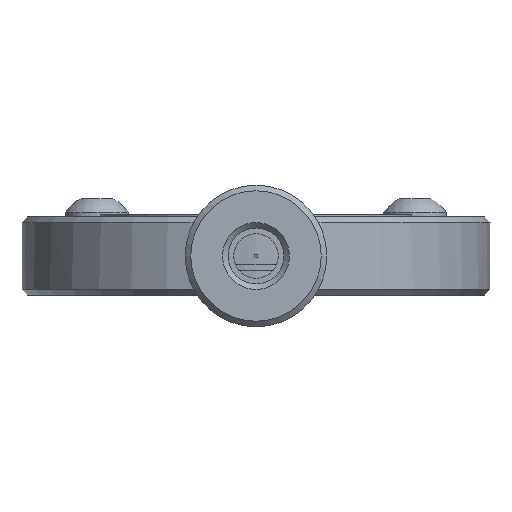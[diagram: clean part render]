
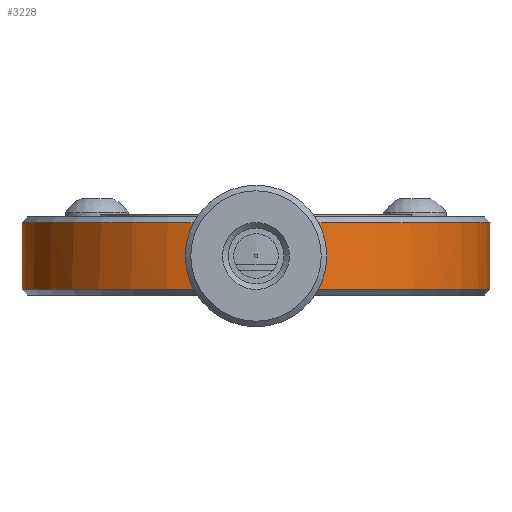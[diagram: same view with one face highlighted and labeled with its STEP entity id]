
A CAD part, front view. The second image highlights one B-rep face of the part: STEP entity #3228.
In plain terms, the highlighted cylindrical face has radius 21 mm (diameter 42 mm), a partial arc.
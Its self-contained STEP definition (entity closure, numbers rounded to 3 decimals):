
#156 = CARTESIAN_POINT ( 'NONE',  ( -5.016, 23.392, 3. ) ) ;
#218 = CARTESIAN_POINT ( 'NONE',  ( -16.872, 56.994, -0.65 ) ) ;
#264 = CARTESIAN_POINT ( 'NONE',  ( 4.094, 23.392, -3. ) ) ;
#265 = CARTESIAN_POINT ( 'NONE',  ( -5.016, 23.392, -3. ) ) ;
#273 = CARTESIAN_POINT ( 'NONE',  ( -16.872, 56.994, 3. ) ) ;
#276 = CARTESIAN_POINT ( 'NONE',  ( 4.094, 23.392, 3. ) ) ;
#284 = CARTESIAN_POINT ( 'NONE',  ( 15.95, 56.994, -0.65 ) ) ;
#291 = CARTESIAN_POINT ( 'NONE',  ( 15.95, 56.994, 3. ) ) ;
#631 = AXIS2_PLACEMENT_3D ( 'NONE', #867, #865, #860 ) ;
#801 = CARTESIAN_POINT ( 'NONE',  ( -0.461, 43.892, 3. ) ) ;
#802 = DIRECTION ( 'NONE',  ( 0., 0., -1. ) ) ;
#803 = DIRECTION ( 'NONE',  ( 1., 0., 0. ) ) ;
#860 = DIRECTION ( 'NONE',  ( -1., 0., 0. ) ) ;
#865 = DIRECTION ( 'NONE',  ( 0., 0., -1. ) ) ;
#867 = CARTESIAN_POINT ( 'NONE',  ( -0.461, 43.892, 3.5 ) ) ;
#1134 = FACE_OUTER_BOUND ( 'NONE', #3444, .T. ) ;
#1136 = CYLINDRICAL_SURFACE ( 'NONE', #631, 21. ) ;
#1397 = VECTOR ( 'NONE', #4024, 1000. ) ;
#1399 = CIRCLE ( 'NONE', #2375, 21. ) ;
#1401 = VECTOR ( 'NONE', #4022, 1000. ) ;
#1403 = LINE ( 'NONE', #4023, #1397 ) ;
#1405 = VECTOR ( 'NONE', #4014, 1000. ) ;
#1411 = LINE ( 'NONE', #4012, #1405 ) ;
#1415 = LINE ( 'NONE', #4021, #1401 ) ;
#1441 = CIRCLE ( 'NONE', #2376, 21. ) ;
#1449 = CIRCLE ( 'NONE', #2387, 21. ) ;
#1491 = VECTOR ( 'NONE', #3037, 1000. ) ;
#1494 = LINE ( 'NONE', #3028, #1491 ) ;
#1497 = CIRCLE ( 'NONE', #2397, 21. ) ;
#2029 = ORIENTED_EDGE ( 'NONE', *, *, #2802, .T. ) ;
#2030 = ORIENTED_EDGE ( 'NONE', *, *, #2801, .T. ) ;
#2031 = ORIENTED_EDGE ( 'NONE', *, *, #2803, .T. ) ;
#2032 = ORIENTED_EDGE ( 'NONE', *, *, #2783, .T. ) ;
#2033 = ORIENTED_EDGE ( 'NONE', *, *, #2757, .T. ) ;
#2034 = ORIENTED_EDGE ( 'NONE', *, *, #2754, .T. ) ;
#2035 = ORIENTED_EDGE ( 'NONE', *, *, #2804, .T. ) ;
#2036 = ORIENTED_EDGE ( 'NONE', *, *, #2805, .T. ) ;
#2375 = AXIS2_PLACEMENT_3D ( 'NONE', #4026, #4027, #4028 ) ;
#2376 = AXIS2_PLACEMENT_3D ( 'NONE', #4018, #4019, #4020 ) ;
#2387 = AXIS2_PLACEMENT_3D ( 'NONE', #801, #802, #803 ) ;
#2397 = AXIS2_PLACEMENT_3D ( 'NONE', #3029, #3030, #3031 ) ;
#2754 = EDGE_CURVE ( 'NONE', #3816, #3903, #1497, .T. ) ;
#2757 = EDGE_CURVE ( 'NONE', #3887, #3816, #1494, .T. ) ;
#2783 = EDGE_CURVE ( 'NONE', #3754, #3887, #1449, .T. ) ;
#2801 = EDGE_CURVE ( 'NONE', #3871, #3875, #1441, .T. ) ;
#2802 = EDGE_CURVE ( 'NONE', #3891, #3871, #1411, .T. ) ;
#2803 = EDGE_CURVE ( 'NONE', #3875, #3754, #1415, .T. ) ;
#2804 = EDGE_CURVE ( 'NONE', #3903, #3920, #1403, .T. ) ;
#2805 = EDGE_CURVE ( 'NONE', #3920, #3891, #1399, .T. ) ;
#3028 = CARTESIAN_POINT ( 'NONE',  ( -16.872, 56.994, 3.5 ) ) ;
#3029 = CARTESIAN_POINT ( 'NONE',  ( -0.461, 43.892, -0.65 ) ) ;
#3030 = DIRECTION ( 'NONE',  ( 0., 0., -1. ) ) ;
#3031 = DIRECTION ( 'NONE',  ( -1., 0., 0. ) ) ;
#3037 = DIRECTION ( 'NONE',  ( 0., 0., -1. ) ) ;
#3228 = ADVANCED_FACE ( 'NONE', ( #1134 ), #1136, .T. ) ;
#3444 = EDGE_LOOP ( 'NONE', ( #2029, #2030, #2031, #2032, #2033, #2034, #2035, #2036 ) ) ;
#3754 = VERTEX_POINT ( 'NONE', #156 ) ;
#3816 = VERTEX_POINT ( 'NONE', #218 ) ;
#3871 = VERTEX_POINT ( 'NONE', #264 ) ;
#3875 = VERTEX_POINT ( 'NONE', #265 ) ;
#3887 = VERTEX_POINT ( 'NONE', #273 ) ;
#3891 = VERTEX_POINT ( 'NONE', #276 ) ;
#3903 = VERTEX_POINT ( 'NONE', #284 ) ;
#3920 = VERTEX_POINT ( 'NONE', #291 ) ;
#4012 = CARTESIAN_POINT ( 'NONE',  ( 4.094, 23.392, 3.5 ) ) ;
#4014 = DIRECTION ( 'NONE',  ( 0., 0., -1. ) ) ;
#4018 = CARTESIAN_POINT ( 'NONE',  ( -0.461, 43.892, -3. ) ) ;
#4019 = DIRECTION ( 'NONE',  ( 0., 0., 1. ) ) ;
#4020 = DIRECTION ( 'NONE',  ( 1., 0., 0. ) ) ;
#4021 = CARTESIAN_POINT ( 'NONE',  ( -5.016, 23.392, 3.5 ) ) ;
#4022 = DIRECTION ( 'NONE',  ( 0., 0., 1. ) ) ;
#4023 = CARTESIAN_POINT ( 'NONE',  ( 15.95, 56.994, 3.5 ) ) ;
#4024 = DIRECTION ( 'NONE',  ( 0., 0., 1. ) ) ;
#4026 = CARTESIAN_POINT ( 'NONE',  ( -0.461, 43.892, 3. ) ) ;
#4027 = DIRECTION ( 'NONE',  ( 0., 0., -1. ) ) ;
#4028 = DIRECTION ( 'NONE',  ( 1., 0., 0. ) ) ;
